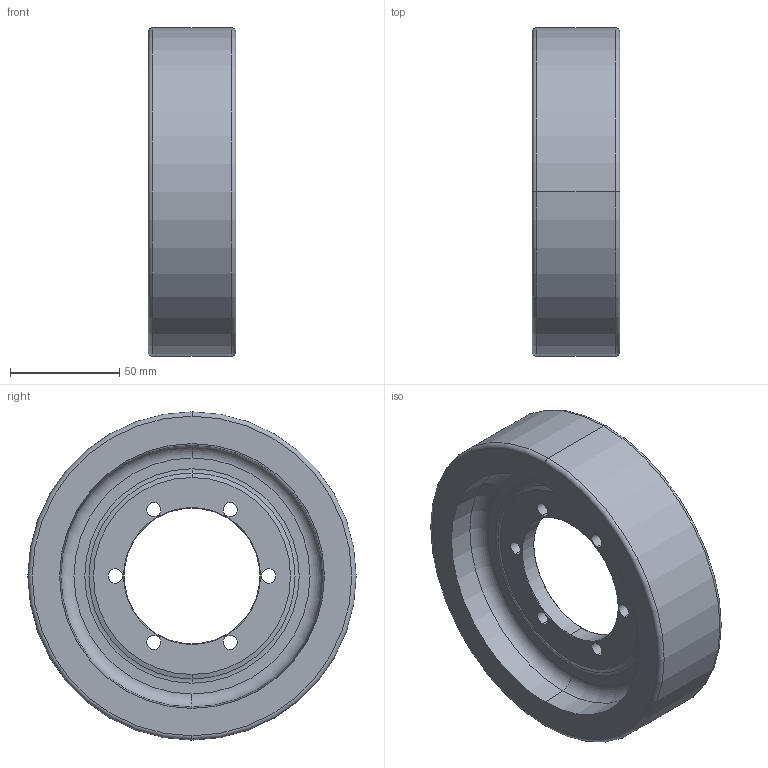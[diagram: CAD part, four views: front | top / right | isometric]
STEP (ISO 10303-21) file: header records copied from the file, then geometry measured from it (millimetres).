
FILE_DESCRIPTION (( 'STEP AP203' ), '1' );
FILE_NAME ('1.STEP', '2026-02-07T05:59:46', ( 'Y' ), ( '' ), 'SwSTEP 2.0', 'SolidWorks 2018', '' );
FILE_SCHEMA (( 'CONFIG_CONTROL_DESIGN' ));
Length unit declared in the file: millimetre
Products named in the file (1): 1
Bounding box: 40 x 149.93 x 149.93 mm (x, y, z)
Volume: 313144 mm3; surface area: 59891.4 mm2
Topology: 1 solids, 1 shells, 46 faces, 104 edges, 64 vertices
Faces by surface type: cylinder 16, torus 12, cone 12, plane 6
Entity records: 1421 total; most frequent: DIRECTION 274, CARTESIAN_POINT 215, ORIENTED_EDGE 208, AXIS2_PLACEMENT_3D 123, EDGE_CURVE 104, CIRCLE 76, EDGE_LOOP 64, VERTEX_POINT 64
